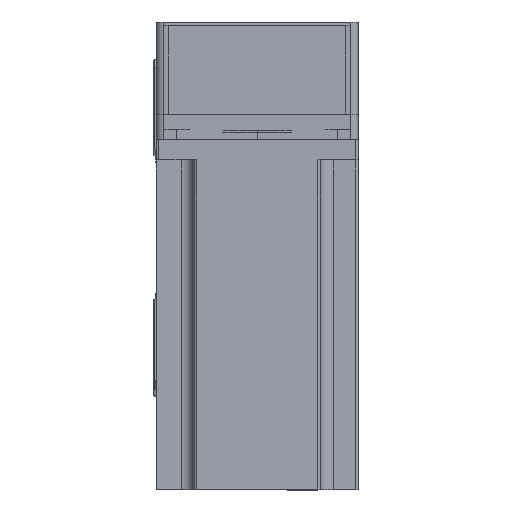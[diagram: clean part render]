
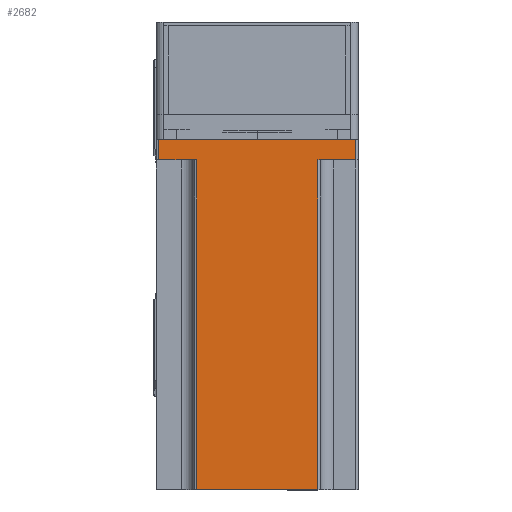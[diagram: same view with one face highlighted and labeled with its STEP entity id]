
A CAD part, top view. The second image highlights one B-rep face of the part: STEP entity #2682.
In plain terms, the highlighted planar face has unit normal (0, 0, 1) as drawn and (0, 1, 0) by its records, which use the part's own axes.
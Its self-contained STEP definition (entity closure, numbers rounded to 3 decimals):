
#1102 = LINE ( 'NONE', #3863, #11698 ) ;
#1399 = DIRECTION ( 'NONE',  ( 0., 0., 1. ) ) ;
#1887 = VERTEX_POINT ( 'NONE', #9135 ) ;
#2175 = ORIENTED_EDGE ( 'NONE', *, *, #5234, .T. ) ;
#2682 = ADVANCED_FACE ( 'NONE', ( #17984 ), #20921, .F. ) ;
#3826 = VERTEX_POINT ( 'NONE', #45893 ) ;
#3863 = CARTESIAN_POINT ( 'NONE',  ( 39., 40., 138.3 ) ) ;
#5010 = CARTESIAN_POINT ( 'NONE',  ( 40., 40., 138.3 ) ) ;
#5234 = EDGE_CURVE ( 'NONE', #14581, #34053, #14681, .T. ) ;
#7085 = DIRECTION ( 'NONE',  ( 1., 0., 0. ) ) ;
#7205 = CARTESIAN_POINT ( 'NONE',  ( -25., 40., 8. ) ) ;
#8038 = VECTOR ( 'NONE', #18399, 1000. ) ;
#9035 = VECTOR ( 'NONE', #20856, 1000. ) ;
#9135 = CARTESIAN_POINT ( 'NONE',  ( -24., 40., 8. ) ) ;
#10042 = VECTOR ( 'NONE', #13882, 1000. ) ;
#10070 = CARTESIAN_POINT ( 'NONE',  ( -24., 40., 138.3 ) ) ;
#11481 = ORIENTED_EDGE ( 'NONE', *, *, #46952, .T. ) ;
#11698 = VECTOR ( 'NONE', #35388, 1000. ) ;
#13563 = LINE ( 'NONE', #46452, #24155 ) ;
#13882 = DIRECTION ( 'NONE',  ( -1., 0., 0. ) ) ;
#14521 = EDGE_CURVE ( 'NONE', #3826, #28001, #49727, .T. ) ;
#14581 = VERTEX_POINT ( 'NONE', #35418 ) ;
#14681 = LINE ( 'NONE', #55911, #49116 ) ;
#14940 = DIRECTION ( 'NONE',  ( -1., 0., 0. ) ) ;
#17036 = VERTEX_POINT ( 'NONE', #43689 ) ;
#17529 = CARTESIAN_POINT ( 'NONE',  ( 40., 40., 138.3 ) ) ;
#17832 = EDGE_CURVE ( 'NONE', #1887, #40120, #13563, .T. ) ;
#17984 = FACE_OUTER_BOUND ( 'NONE', #57575, .T. ) ;
#18399 = DIRECTION ( 'NONE',  ( 0., 0., 1. ) ) ;
#20856 = DIRECTION ( 'NONE',  ( 1., 0., 0. ) ) ;
#20921 = PLANE ( 'NONE',  #25168 ) ;
#21090 = LINE ( 'NONE', #7205, #9035 ) ;
#21490 = LINE ( 'NONE', #49812, #8038 ) ;
#23035 = DIRECTION ( 'NONE',  ( 0., -1., 0. ) ) ;
#24155 = VECTOR ( 'NONE', #1399, 1000. ) ;
#24794 = ORIENTED_EDGE ( 'NONE', *, *, #17832, .T. ) ;
#25168 = AXIS2_PLACEMENT_3D ( 'NONE', #17529, #23035, #7085 ) ;
#25589 = CARTESIAN_POINT ( 'NONE',  ( 24., 40., 138.3 ) ) ;
#26115 = ORIENTED_EDGE ( 'NONE', *, *, #30169, .T. ) ;
#26828 = CARTESIAN_POINT ( 'NONE',  ( 24., 40., 8. ) ) ;
#27288 = ORIENTED_EDGE ( 'NONE', *, *, #14521, .T. ) ;
#27677 = ORIENTED_EDGE ( 'NONE', *, *, #49446, .F. ) ;
#28001 = VERTEX_POINT ( 'NONE', #26828 ) ;
#29044 = DIRECTION ( 'NONE',  ( -1., 0., 0. ) ) ;
#30169 = EDGE_CURVE ( 'NONE', #39162, #1887, #21090, .T. ) ;
#33329 = VECTOR ( 'NONE', #14940, 1000. ) ;
#34053 = VERTEX_POINT ( 'NONE', #48324 ) ;
#35388 = DIRECTION ( 'NONE',  ( 0., 0., -1. ) ) ;
#35418 = CARTESIAN_POINT ( 'NONE',  ( 39., 40., 0. ) ) ;
#37394 = CARTESIAN_POINT ( 'NONE',  ( 25., 40., 8. ) ) ;
#37718 = EDGE_CURVE ( 'NONE', #34053, #39162, #21490, .T. ) ;
#39162 = VERTEX_POINT ( 'NONE', #54980 ) ;
#40120 = VERTEX_POINT ( 'NONE', #10070 ) ;
#43689 = CARTESIAN_POINT ( 'NONE',  ( 39., 40., 8. ) ) ;
#44538 = LINE ( 'NONE', #5010, #10042 ) ;
#45217 = LINE ( 'NONE', #37394, #33329 ) ;
#45489 = VECTOR ( 'NONE', #52853, 1000. ) ;
#45893 = CARTESIAN_POINT ( 'NONE',  ( 24., 40., 138.3 ) ) ;
#46452 = CARTESIAN_POINT ( 'NONE',  ( -24., 40., 138.3 ) ) ;
#46952 = EDGE_CURVE ( 'NONE', #17036, #14581, #1102, .T. ) ;
#48324 = CARTESIAN_POINT ( 'NONE',  ( -39., 40., 0. ) ) ;
#49116 = VECTOR ( 'NONE', #29044, 1000. ) ;
#49446 = EDGE_CURVE ( 'NONE', #3826, #40120, #44538, .T. ) ;
#49727 = LINE ( 'NONE', #25589, #45489 ) ;
#49812 = CARTESIAN_POINT ( 'NONE',  ( -39., 40., 138.3 ) ) ;
#52853 = DIRECTION ( 'NONE',  ( 0., 0., -1. ) ) ;
#54528 = EDGE_CURVE ( 'NONE', #17036, #28001, #45217, .T. ) ;
#54693 = ORIENTED_EDGE ( 'NONE', *, *, #54528, .F. ) ;
#54980 = CARTESIAN_POINT ( 'NONE',  ( -39., 40., 8. ) ) ;
#55911 = CARTESIAN_POINT ( 'NONE',  ( 40., 40., 0. ) ) ;
#57078 = ORIENTED_EDGE ( 'NONE', *, *, #37718, .T. ) ;
#57575 = EDGE_LOOP ( 'NONE', ( #26115, #24794, #27677, #27288, #54693, #11481, #2175, #57078 ) ) ;
